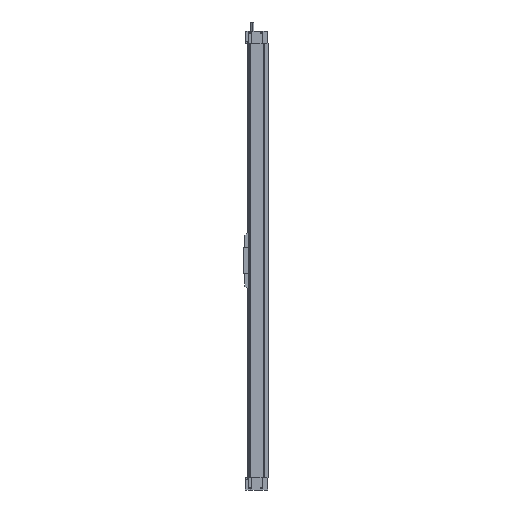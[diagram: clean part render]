
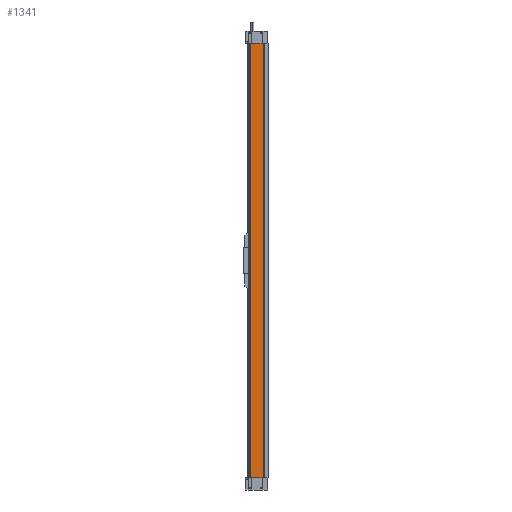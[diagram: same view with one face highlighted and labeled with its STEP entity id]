
A CAD part, left-side view. The second image highlights one B-rep face of the part: STEP entity #1341.
In plain terms, the highlighted planar face has unit normal (-1, 0, 0).
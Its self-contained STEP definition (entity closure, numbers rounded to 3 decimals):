
#1053 = ORIENTED_EDGE ( 'NONE', *, *, #3902, .T. ) ;
#1059 = EDGE_CURVE ( 'NONE', #7986, #3907, #5828, .T. ) ;
#1271 = ORIENTED_EDGE ( 'NONE', *, *, #7846, .F. ) ;
#1341 = ADVANCED_FACE ( 'NONE', ( #6269 ), #6231, .F. ) ;
#1342 = ORIENTED_EDGE ( 'NONE', *, *, #1352, .F. ) ;
#1352 = EDGE_CURVE ( 'NONE', #6619, #3994, #4251, .T. ) ;
#1358 = EDGE_LOOP ( 'NONE', ( #1053, #1342, #1271, #1407 ) ) ;
#1407 = ORIENTED_EDGE ( 'NONE', *, *, #1059, .T. ) ;
#3902 = EDGE_CURVE ( 'NONE', #3907, #3994, #10678, .T. ) ;
#3907 = VERTEX_POINT ( 'NONE', #10672 ) ;
#3994 = VERTEX_POINT ( 'NONE', #10754 ) ;
#4251 = LINE ( 'NONE', #4754, #4770 ) ;
#4753 = DIRECTION ( 'NONE',  ( 0., 0., -1. ) ) ;
#4754 = CARTESIAN_POINT ( 'NONE',  ( -32.5, -16.45, 1420. ) ) ;
#4770 = VECTOR ( 'NONE', #4753, 1000. ) ;
#5827 = CARTESIAN_POINT ( 'NONE',  ( -32.5, 24.15, 1420. ) ) ;
#5828 = LINE ( 'NONE', #5827, #5876 ) ;
#5875 = DIRECTION ( 'NONE',  ( 0., 0., -1. ) ) ;
#5876 = VECTOR ( 'NONE', #5875, 1000. ) ;
#6231 = PLANE ( 'NONE',  #6258 ) ;
#6253 = DIRECTION ( 'NONE',  ( 0., 0., -1. ) ) ;
#6254 = DIRECTION ( 'NONE',  ( 1., 0., 0. ) ) ;
#6255 = CARTESIAN_POINT ( 'NONE',  ( -32.5, -16.45, 1420. ) ) ;
#6258 = AXIS2_PLACEMENT_3D ( 'NONE', #6255, #6254, #6253 ) ;
#6269 = FACE_OUTER_BOUND ( 'NONE', #1358, .T. ) ;
#6619 = VERTEX_POINT ( 'NONE', #10956 ) ;
#7846 = EDGE_CURVE ( 'NONE', #7986, #6619, #11080, .T. ) ;
#7986 = VERTEX_POINT ( 'NONE', #11109 ) ;
#10672 = CARTESIAN_POINT ( 'NONE',  ( -32.5, 24.15, 0. ) ) ;
#10674 = VECTOR ( 'NONE', #10676, 1000. ) ;
#10676 = DIRECTION ( 'NONE',  ( 0., -1., 0. ) ) ;
#10677 = CARTESIAN_POINT ( 'NONE',  ( -32.5, -16.45, 0. ) ) ;
#10678 = LINE ( 'NONE', #10677, #10674 ) ;
#10754 = CARTESIAN_POINT ( 'NONE',  ( -32.5, -16.45, 0. ) ) ;
#10956 = CARTESIAN_POINT ( 'NONE',  ( -32.5, -16.45, 1420. ) ) ;
#11077 = DIRECTION ( 'NONE',  ( 0., -1., 0. ) ) ;
#11078 = VECTOR ( 'NONE', #11077, 1000. ) ;
#11079 = CARTESIAN_POINT ( 'NONE',  ( -32.5, -16.45, 1420. ) ) ;
#11080 = LINE ( 'NONE', #11079, #11078 ) ;
#11109 = CARTESIAN_POINT ( 'NONE',  ( -32.5, 24.15, 1420. ) ) ;
